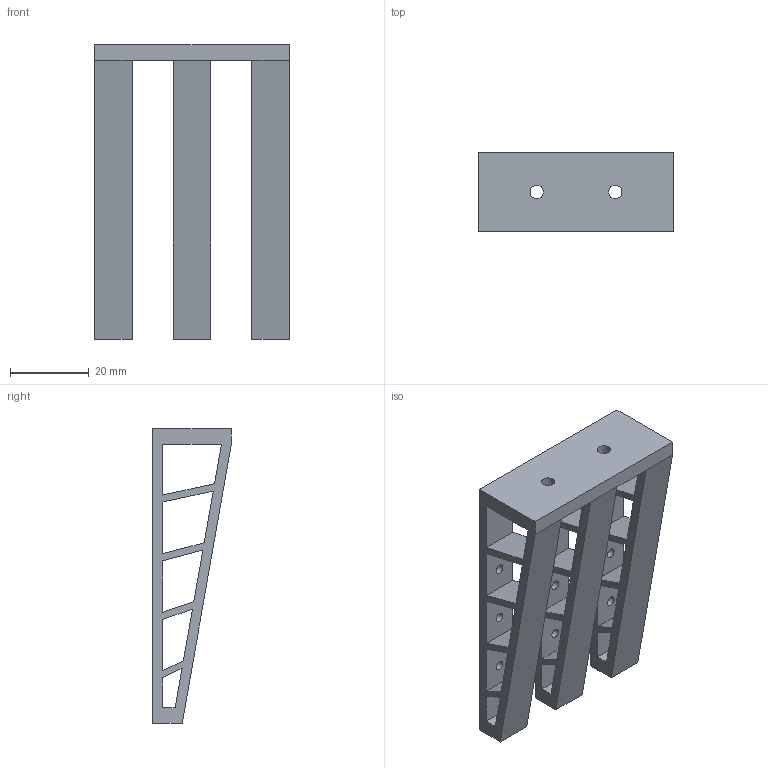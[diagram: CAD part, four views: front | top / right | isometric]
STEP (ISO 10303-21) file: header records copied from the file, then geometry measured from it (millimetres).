
FILE_DESCRIPTION(('Open CASCADE Model'),'2;1');
FILE_NAME('Open CASCADE Shape Model','2026-10-17T21:54:43',('Author'),( 'Open CASCADE'),'Open CASCADE STEP processor 7.9','Open CASCADE 7.9' ,'Unknown');
FILE_SCHEMA(('AUTOMOTIVE_DESIGN { 1 0 10303 214 1 1 1 1 }'));
Length unit declared in the file: millimetre
Products named in the file (1): Open CASCADE STEP translator 7.9 14
Bounding box: 49.5 x 20 x 75 mm (x, y, z)
Volume: 16096.4 mm3; surface area: 15099 mm2
Topology: 1 solids, 1 shells, 84 faces, 254 edges, 168 vertices
Faces by surface type: plane 73, cylinder 11
Full cylindrical faces by diameter (mm): 2.4 x9, 3.4 x2
Entity records: 6168 total; most frequent: CARTESIAN_POINT 1269, DIRECTION 810, LINE 596, VECTOR 596, ORIENTED_EDGE 508, PCURVE 508, DEFINITIONAL_REPRESENTATION 508, EDGE_CURVE 254
